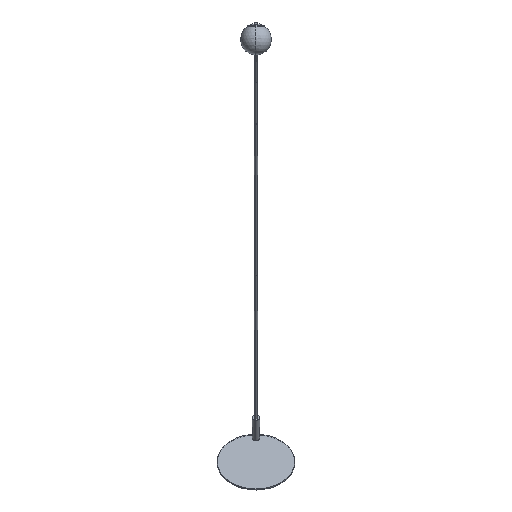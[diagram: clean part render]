
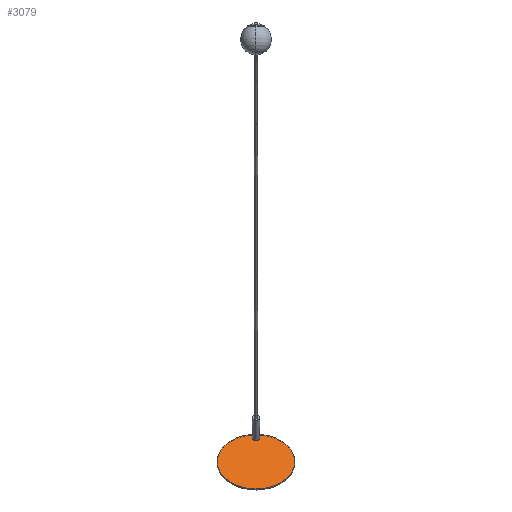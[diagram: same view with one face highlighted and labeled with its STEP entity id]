
A CAD part, top view. The second image highlights one B-rep face of the part: STEP entity #3079.
In plain terms, the highlighted planar face has unit normal (0, 0.71, 0.704).
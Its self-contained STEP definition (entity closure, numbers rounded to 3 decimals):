
#3012=CARTESIAN_POINT('',(0.,-2192.001,
-2421.653));
#3013=DIRECTION('',(0.,0.71,0.704));
#3014=DIRECTION('',(0.,-0.704,0.71));
#3015=AXIS2_PLACEMENT_3D('',#3012,#3013,#3014);
#3017=CARTESIAN_POINT('',(0.,-2192.001,
-2421.653));
#3018=DIRECTION('',(0.,0.71,0.704));
#3019=DIRECTION('',(0.,0.704,-0.71));
#3020=AXIS2_PLACEMENT_3D('',#3017,#3018,#3019);
#3026=CARTESIAN_POINT('',(0.,-2332.841,
-2279.653));
#3027=CARTESIAN_POINT('',(0.,-2051.161,
-2563.654));
#3028=VERTEX_POINT('',#3026);
#3029=VERTEX_POINT('',#3027);
#3070=CARTESIAN_POINT('',(0.,-2192.001,
-2421.653));
#3071=DIRECTION('',(0.,0.71,0.704));
#3072=DIRECTION('',(0.,-0.704,0.71));
#3073=AXIS2_PLACEMENT_3D('',#3070,#3071,#3072);
#3074=PLANE('',#3073);
#3075=ORIENTED_EDGE('',*,*,#3050,.F.);
#3076=ORIENTED_EDGE('',*,*,#3064,.F.);
#3077=EDGE_LOOP('',(#3075,#3076));
#3078=FACE_OUTER_BOUND('',#3077,.F.);
#3079=ADVANCED_FACE('',(#3078),#3074,.T.);
#3016=CIRCLE('',#3015,200.);
#3021=CIRCLE('',#3020,200.);
#3050=EDGE_CURVE('',#3028,#3029,#3016,.T.);
#3064=EDGE_CURVE('',#3029,#3028,#3021,.T.);
